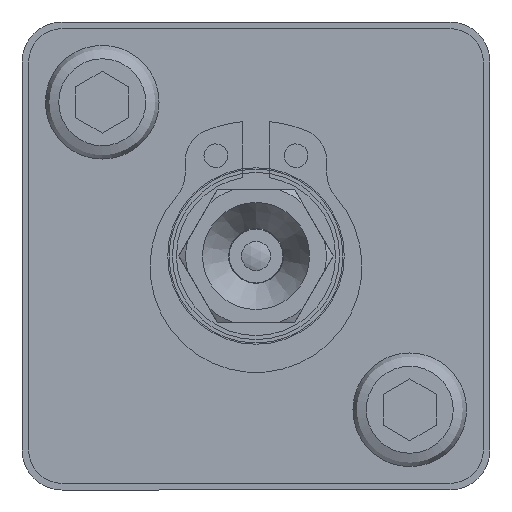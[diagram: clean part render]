
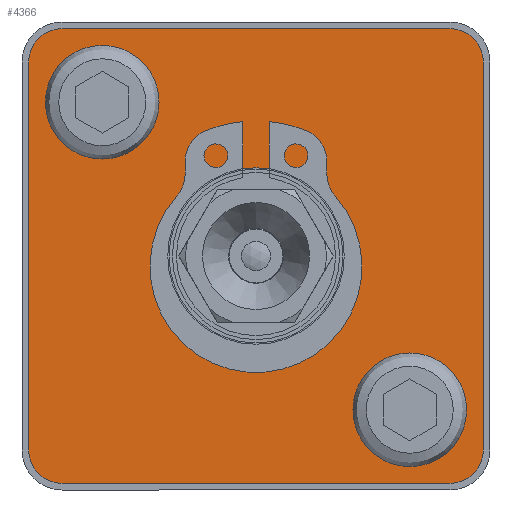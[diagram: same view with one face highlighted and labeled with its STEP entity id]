
A CAD part, front view. The second image highlights one B-rep face of the part: STEP entity #4366.
In plain terms, the highlighted planar face has unit normal (0, -1, 0).
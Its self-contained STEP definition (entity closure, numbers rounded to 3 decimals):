
#211=LINE('',#6475,#485);
#213=LINE('',#6479,#487);
#217=LINE('',#6488,#491);
#221=LINE('',#6502,#495);
#485=VECTOR('',#5331,1000.);
#487=VECTOR('',#5335,1000.);
#491=VECTOR('',#5341,1000.);
#495=VECTOR('',#5353,1000.);
#954=ORIENTED_EDGE('',*,*,#1820,.T.);
#955=ORIENTED_EDGE('',*,*,#1821,.T.);
#956=ORIENTED_EDGE('',*,*,#1809,.T.);
#957=ORIENTED_EDGE('',*,*,#1798,.T.);
#958=ORIENTED_EDGE('',*,*,#1822,.T.);
#959=ORIENTED_EDGE('',*,*,#1800,.T.);
#960=ORIENTED_EDGE('',*,*,#1823,.T.);
#961=ORIENTED_EDGE('',*,*,#1804,.T.);
#962=ORIENTED_EDGE('',*,*,#1824,.T.);
#963=ORIENTED_EDGE('',*,*,#1810,.T.);
#964=ORIENTED_EDGE('',*,*,#1825,.T.);
#1798=EDGE_CURVE('',#2264,#2263,#211,.T.);
#1800=EDGE_CURVE('',#2265,#2266,#213,.T.);
#1804=EDGE_CURVE('',#2269,#2270,#217,.T.);
#1809=EDGE_CURVE('',#2274,#2274,#2580,.T.);
#1810=EDGE_CURVE('',#2275,#2276,#221,.T.);
#1820=EDGE_CURVE('',#2281,#2281,#2587,.T.);
#1821=EDGE_CURVE('',#2282,#2282,#2588,.T.);
#1822=EDGE_CURVE('',#2263,#2265,#2589,.T.);
#1823=EDGE_CURVE('',#2266,#2269,#2590,.T.);
#1824=EDGE_CURVE('',#2270,#2275,#2591,.T.);
#1825=EDGE_CURVE('',#2276,#2264,#2592,.T.);
#2263=VERTEX_POINT('',#6474);
#2264=VERTEX_POINT('',#6476);
#2265=VERTEX_POINT('',#6480);
#2266=VERTEX_POINT('',#6481);
#2269=VERTEX_POINT('',#6489);
#2270=VERTEX_POINT('',#6490);
#2274=VERTEX_POINT('',#6500);
#2275=VERTEX_POINT('',#6503);
#2276=VERTEX_POINT('',#6504);
#2281=VERTEX_POINT('',#6521);
#2282=VERTEX_POINT('',#6523);
#2580=CIRCLE('',#4744,6.6);
#2587=CIRCLE('',#4754,3.);
#2588=CIRCLE('',#4755,3.);
#2589=CIRCLE('',#4756,2.5);
#2590=CIRCLE('',#4757,2.5);
#2591=CIRCLE('',#4758,2.5);
#2592=CIRCLE('',#4759,2.5);
#2828=EDGE_LOOP('',(#954));
#2829=EDGE_LOOP('',(#955));
#2830=EDGE_LOOP('',(#956));
#2831=EDGE_LOOP('',(#957,#958,#959,#960,#961,#962,#963,#964));
#3141=FACE_BOUND('',#2828,.T.);
#3142=FACE_BOUND('',#2829,.T.);
#3143=FACE_BOUND('',#2830,.T.);
#3144=FACE_BOUND('',#2831,.T.);
#3379=PLANE('',#4753);
#4366=ADVANCED_FACE('',(#3141,#3142,#3143,#3144),#3379,.T.);
#4744=AXIS2_PLACEMENT_3D('',#6499,#5349,#5350);
#4753=AXIS2_PLACEMENT_3D('',#6519,#5371,#5372);
#4754=AXIS2_PLACEMENT_3D('',#6520,#5373,#5374);
#4755=AXIS2_PLACEMENT_3D('',#6522,#5375,#5376);
#4756=AXIS2_PLACEMENT_3D('',#6524,#5377,#5378);
#4757=AXIS2_PLACEMENT_3D('',#6525,#5379,#5380);
#4758=AXIS2_PLACEMENT_3D('',#6526,#5381,#5382);
#4759=AXIS2_PLACEMENT_3D('',#6527,#5383,#5384);
#5331=DIRECTION('',(0.,0.,-1.));
#5335=DIRECTION('',(1.,0.,0.));
#5341=DIRECTION('',(0.,0.,1.));
#5349=DIRECTION('',(0.,1.,0.));
#5350=DIRECTION('',(1.,0.,0.));
#5353=DIRECTION('',(-1.,0.,0.));
#5371=DIRECTION('',(0.,-1.,0.));
#5372=DIRECTION('',(0.,0.,-1.));
#5373=DIRECTION('',(0.,1.,0.));
#5374=DIRECTION('',(0.,0.,-1.));
#5375=DIRECTION('',(0.,1.,0.));
#5376=DIRECTION('',(0.,0.,-1.));
#5377=DIRECTION('',(0.,-1.,0.));
#5378=DIRECTION('',(0.,0.,-1.));
#5379=DIRECTION('',(0.,-1.,0.));
#5380=DIRECTION('',(0.,0.,-1.));
#5381=DIRECTION('',(0.,-1.,0.));
#5382=DIRECTION('',(0.,0.,-1.));
#5383=DIRECTION('',(0.,-1.,0.));
#5384=DIRECTION('',(0.,0.,-1.));
#6474=CARTESIAN_POINT('',(-17.,0.,-14.5));
#6475=CARTESIAN_POINT('',(-17.,0.,17.));
#6476=CARTESIAN_POINT('',(-17.,0.,14.5));
#6479=CARTESIAN_POINT('',(-17.,0.,-17.));
#6480=CARTESIAN_POINT('',(-14.5,0.,-17.));
#6481=CARTESIAN_POINT('',(14.5,0.,-17.));
#6488=CARTESIAN_POINT('',(17.,0.,-17.));
#6489=CARTESIAN_POINT('',(17.,0.,-14.5));
#6490=CARTESIAN_POINT('',(17.,0.,14.5));
#6499=CARTESIAN_POINT('',(0.,0.,0.));
#6500=CARTESIAN_POINT('',(6.6,0.,0.));
#6502=CARTESIAN_POINT('',(17.,0.,17.));
#6503=CARTESIAN_POINT('',(14.5,0.,17.));
#6504=CARTESIAN_POINT('',(-14.5,0.,17.));
#6519=CARTESIAN_POINT('',(0.,0.,0.));
#6520=CARTESIAN_POINT('',(11.5,0.,-11.5));
#6521=CARTESIAN_POINT('',(11.5,0.,-14.5));
#6522=CARTESIAN_POINT('',(-11.5,0.,11.5));
#6523=CARTESIAN_POINT('',(-11.5,0.,8.5));
#6524=CARTESIAN_POINT('',(-14.5,0.,-14.5));
#6525=CARTESIAN_POINT('',(14.5,0.,-14.5));
#6526=CARTESIAN_POINT('',(14.5,0.,14.5));
#6527=CARTESIAN_POINT('',(-14.5,0.,14.5));
